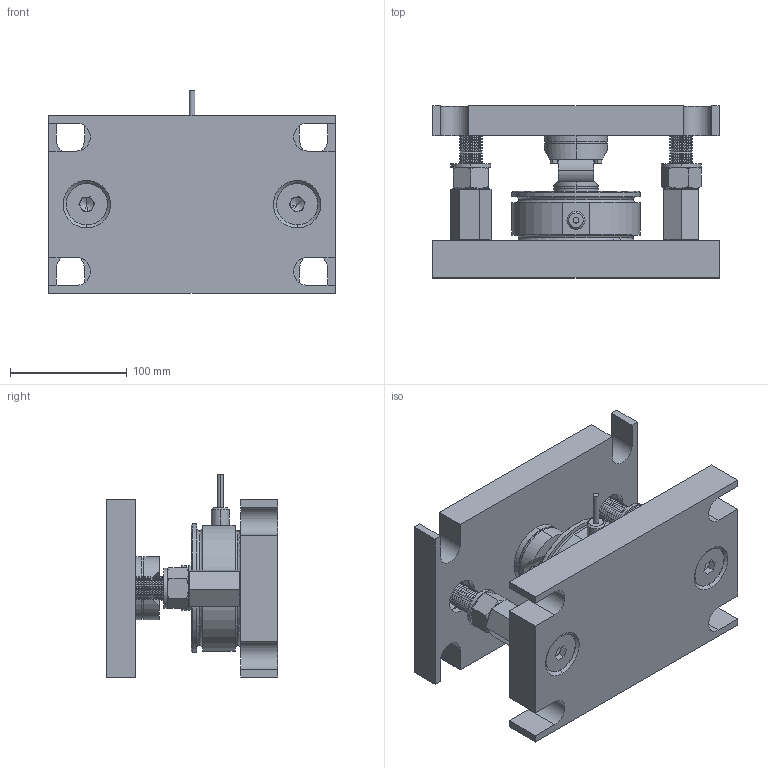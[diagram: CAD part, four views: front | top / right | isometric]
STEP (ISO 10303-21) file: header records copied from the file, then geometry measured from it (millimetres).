
FILE_DESCRIPTION (( 'STEP AP214' ), '1' );
FILE_NAME ('EBH-RB-220-20t - STEP.STEP', '2019-05-10T09:22:19', ( '' ), ( '' ), 'SwSTEP 2.0', 'SolidWorks 2019', '' );
FILE_SCHEMA (( 'AUTOMOTIVE_DESIGN' ));
Length unit declared in the file: millimetre
Products named in the file (14): plain washer grade c_din_Washer DIN 126 - 20; EBH-RB-220-20t Rolle; EBH-RB-220-20t Grundplatte; spring pin slotted_ld_iso 14mm_ISO 13337 - 4 x 16 - St; EBH-RB-220-20t - STEP; EBH-RB-220-20t Anschraubplatte; EBH-RB-220-20t Druckstück; socket countersunk head screw_din_DIN 7991 - M20 x 90 --- 90S; hex nut style 1 gradeab_iso_ISO - 4032 - M20 - D - N; socket countersunk head screw_schrauben_DIN 7991 - M20 x 50 --- 34S; 220-20-30t; Verlängerungsmutter M20; Spannstift; EBH-RB-220-20t Druckstück oben
Assembly tree (20 placements, depth 2):
  EBH-RB-220-20t - STEP
    EBH-RB-220-20t Grundplatte
    EBH-RB-220-20t Anschraubplatte
    socket countersunk head screw_schrauben_DIN 7991 - M20 x 50 --- 34S  x2
    220-20-30t
    EBH-RB-220-20t Druckstück oben
    EBH-RB-220-20t Druckstück
    EBH-RB-220-20t Rolle
    Verlängerungsmutter M20  x2
    socket countersunk head screw_din_DIN 7991 - M20 x 90 --- 90S  x2
    plain washer grade c_din_Washer DIN 126 - 20  x2
    Spannstift  x2
    hex nut style 1 gradeab_iso_ISO - 4032 - M20 - D - N  x2
    spring pin slotted_ld_iso 14mm_ISO 13337 - 4 x 16 - St  x2
Bounding box: 245 x 147 x 173.7 mm (x, y, z)
Volume: 2458505 mm3; surface area: 330638.9 mm2
Topology: 20 solids, 20 shells, 1001 faces, 2493 edges, 1535 vertices
Faces by surface type: cone 477, cylinder 302, plane 200, torus 20, sphere 2
Entity records: 18949 total; most frequent: CARTESIAN_POINT 3586, DIRECTION 3417, ORIENTED_EDGE 2940, EDGE_CURVE 1470, AXIS2_PLACEMENT_3D 1388, VERTEX_POINT 917, CIRCLE 769, LINE 641
